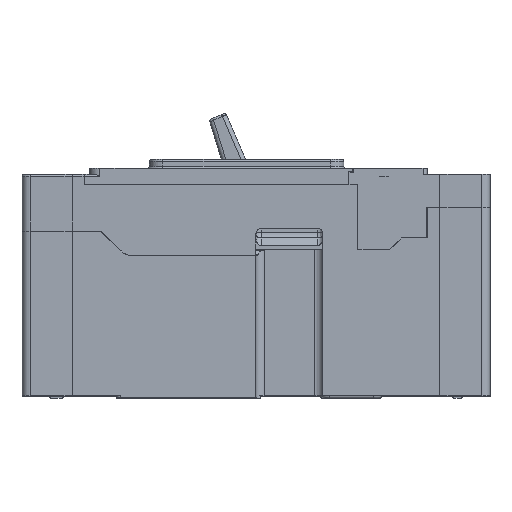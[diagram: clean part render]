
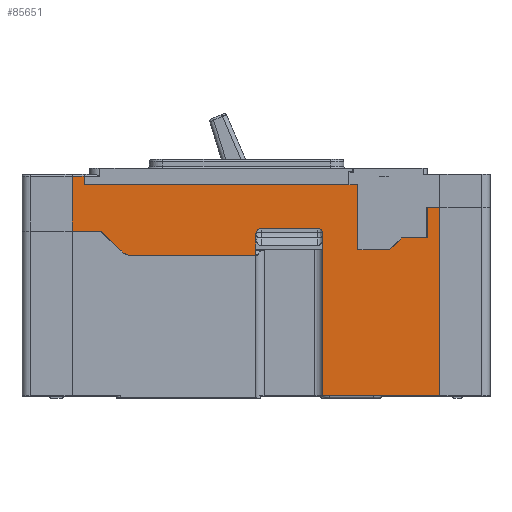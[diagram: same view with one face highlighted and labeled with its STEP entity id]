
A CAD part, top view. The second image highlights one B-rep face of the part: STEP entity #85651.
In plain terms, the highlighted planar face has unit normal (0, 0, 1).
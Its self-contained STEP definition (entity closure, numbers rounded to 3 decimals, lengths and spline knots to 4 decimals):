
#4738=DIRECTION('',(0.,-1.,0.));
#4739=VECTOR('',#4738,2.813);
#4740=CARTESIAN_POINT('',(5.75,0.35,2.062));
#4741=LINE('',#4740,#4739);
#4742=DIRECTION('',(0.,1.,0.));
#4743=VECTOR('',#4742,0.24);
#4744=CARTESIAN_POINT('',(4.,-0.275,2.062));
#4745=LINE('',#4744,#4743);
#4746=DIRECTION('',(-1.,0.,0.));
#4747=VECTOR('',#4746,0.85);
#4748=CARTESIAN_POINT('',(3.925,0.04,2.062));
#4749=LINE('',#4748,#4747);
#4750=DIRECTION('',(-1.,0.,0.));
#4751=VECTOR('',#4750,1.8437);
#4752=CARTESIAN_POINT('',(3.,-0.363,2.062));
#4753=LINE('',#4752,#4751);
#4754=CARTESIAN_POINT('',(1.1563,-0.115,2.062));
#4755=DIRECTION('',(0.,0.,-1.));
#4756=DIRECTION('',(0.,-1.,0.));
#4757=AXIS2_PLACEMENT_3D('',#4754,#4755,#4756);
#4759=DIRECTION('',(-0.707,0.707,0.));
#4760=VECTOR('',#4759,0.4135);
#4761=CARTESIAN_POINT('',(0.9809,-0.2904,2.062));
#4762=LINE('',#4761,#4760);
#4763=DIRECTION('',(-1.,0.,0.));
#4764=VECTOR('',#4763,0.4385);
#4765=CARTESIAN_POINT('',(0.6885,0.002,2.062));
#4766=LINE('',#4765,#4764);
#4767=DIRECTION('',(0.,1.,0.));
#4768=VECTOR('',#4767,0.818);
#4769=CARTESIAN_POINT('',(0.25,0.002,2.062));
#4770=LINE('',#4769,#4768);
#4771=DIRECTION('',(0.,-1.,0.));
#4772=VECTOR('',#4771,0.126);
#4773=CARTESIAN_POINT('',(0.429,0.82,2.062));
#4774=LINE('',#4773,#4772);
#4775=DIRECTION('',(1.,0.,0.));
#4776=VECTOR('',#4775,0.011);
#4777=CARTESIAN_POINT('',(0.429,0.694,2.062));
#4778=LINE('',#4777,#4776);
#4779=DIRECTION('',(-1.,0.,0.));
#4780=VECTOR('',#4779,3.945);
#4781=CARTESIAN_POINT('',(4.385,0.694,2.062));
#4782=LINE('',#4781,#4780);
#4783=DIRECTION('',(1.,0.,0.));
#4784=VECTOR('',#4783,0.006);
#4785=CARTESIAN_POINT('',(4.385,0.694,2.062));
#4786=LINE('',#4785,#4784);
#4787=DIRECTION('',(-1.,0.,0.));
#4788=VECTOR('',#4787,0.134);
#4789=CARTESIAN_POINT('',(4.525,0.694,2.062));
#4790=LINE('',#4789,#4788);
#4791=DIRECTION('',(0.,-1.,0.));
#4792=VECTOR('',#4791,0.973);
#4793=CARTESIAN_POINT('',(4.525,0.694,2.062));
#4794=LINE('',#4793,#4792);
#4795=DIRECTION('',(-0.707,-0.707,0.));
#4796=VECTOR('',#4795,0.0057);
#4797=CARTESIAN_POINT('',(4.997,-0.275,2.062));
#4798=LINE('',#4797,#4796);
#4799=DIRECTION('',(0.707,0.707,0.));
#4800=VECTOR('',#4799,0.2475);
#4801=CARTESIAN_POINT('',(5.002,-0.275,2.062));
#4802=LINE('',#4801,#4800);
#4803=DIRECTION('',(-1.,0.,0.));
#4804=VECTOR('',#4803,0.378);
#4805=CARTESIAN_POINT('',(5.555,-0.1,2.062));
#4806=LINE('',#4805,#4804);
#4807=DIRECTION('',(1.,0.,0.));
#4808=VECTOR('',#4807,0.005);
#4809=CARTESIAN_POINT('',(5.555,-0.1,2.062));
#4810=LINE('',#4809,#4808);
#4811=DIRECTION('',(-1.,0.,0.));
#4812=VECTOR('',#4811,0.19);
#4813=CARTESIAN_POINT('',(5.75,0.35,2.062));
#4814=LINE('',#4813,#4812);
#5302=DIRECTION('',(-1.,0.,0.));
#5303=VECTOR('',#5302,1.75);
#5304=CARTESIAN_POINT('',(5.75,-2.463,2.062));
#5305=LINE('',#5304,#5303);
#6132=DIRECTION('',(-1.,0.,0.));
#6133=VECTOR('',#6132,0.179);
#6134=CARTESIAN_POINT('',(0.429,0.82,2.062));
#6135=LINE('',#6134,#6133);
#6511=DIRECTION('',(0.,1.,0.));
#6512=VECTOR('',#6511,0.328);
#6513=CARTESIAN_POINT('',(3.,-0.363,2.062));
#6514=LINE('',#6513,#6512);
#6768=CARTESIAN_POINT('',(3.075,-0.035,2.062));
#6769=DIRECTION('',(0.,0.,-1.));
#6770=DIRECTION('',(-1.,0.,0.));
#6771=AXIS2_PLACEMENT_3D('',#6768,#6769,#6770);
#6777=CARTESIAN_POINT('',(3.925,-0.035,2.062));
#6778=DIRECTION('',(0.,0.,-1.));
#6779=DIRECTION('',(0.,1.,0.));
#6780=AXIS2_PLACEMENT_3D('',#6777,#6778,#6779);
#7714=DIRECTION('',(0.,-1.,0.));
#7715=VECTOR('',#7714,2.188);
#7716=CARTESIAN_POINT('',(4.,-0.275,2.062));
#7717=LINE('',#7716,#7715);
#11554=DIRECTION('',(-1.,0.,0.));
#11555=VECTOR('',#11554,0.005);
#11556=CARTESIAN_POINT('',(5.002,-0.275,2.062));
#11557=LINE('',#11556,#11555);
#11574=DIRECTION('',(-1.,0.,0.));
#11575=VECTOR('',#11574,0.468);
#11576=CARTESIAN_POINT('',(4.993,-0.279,2.062));
#11577=LINE('',#11576,#11575);
#16290=DIRECTION('',(0.,-1.,0.));
#16291=VECTOR('',#16290,0.45);
#16292=CARTESIAN_POINT('',(5.56,0.35,2.062));
#16293=LINE('',#16292,#16291);
#64630=CARTESIAN_POINT('',(4.,-2.463,2.062));
#64632=VERTEX_POINT('',#64630);
#65432=CARTESIAN_POINT('',(5.75,-2.463,2.062));
#65433=VERTEX_POINT('',#65432);
#66991=CARTESIAN_POINT('',(5.002,-0.275,2.062));
#66993=VERTEX_POINT('',#66991);
#67957=CARTESIAN_POINT('',(5.56,-0.1,2.062));
#67958=VERTEX_POINT('',#67957);
#68587=CARTESIAN_POINT('',(0.25,0.002,2.062));
#68589=VERTEX_POINT('',#68587);
#69061=CARTESIAN_POINT('',(0.429,0.694,2.062));
#69062=VERTEX_POINT('',#69061);
#69286=CARTESIAN_POINT('',(0.25,0.82,2.062));
#69287=VERTEX_POINT('',#69286);
#69288=CARTESIAN_POINT('',(0.429,0.82,2.062));
#69289=VERTEX_POINT('',#69288);
#70799=CARTESIAN_POINT('',(3.,-0.363,2.062));
#70800=CARTESIAN_POINT('',(1.1563,-0.363,2.062));
#70801=VERTEX_POINT('',#70799);
#70802=VERTEX_POINT('',#70800);
#70803=CARTESIAN_POINT('',(0.6885,0.002,2.062));
#70804=VERTEX_POINT('',#70803);
#70805=CARTESIAN_POINT('',(0.9809,-0.2904,2.062));
#70806=VERTEX_POINT('',#70805);
#71007=CARTESIAN_POINT('',(3.925,0.04,2.062));
#71009=VERTEX_POINT('',#71007);
#71011=CARTESIAN_POINT('',(4.,-0.035,2.062));
#71013=VERTEX_POINT('',#71011);
#71016=CARTESIAN_POINT('',(3.075,0.04,2.062));
#71018=VERTEX_POINT('',#71016);
#71020=CARTESIAN_POINT('',(3.,-0.035,2.062));
#71022=VERTEX_POINT('',#71020);
#72359=CARTESIAN_POINT('',(4.,-0.275,2.062));
#72361=VERTEX_POINT('',#72359);
#73361=CARTESIAN_POINT('',(4.385,0.694,2.062));
#73362=CARTESIAN_POINT('',(0.44,0.694,2.062));
#73363=VERTEX_POINT('',#73361);
#73364=VERTEX_POINT('',#73362);
#76368=CARTESIAN_POINT('',(4.525,0.694,2.062));
#76369=CARTESIAN_POINT('',(4.525,-0.279,2.062));
#76370=VERTEX_POINT('',#76368);
#76371=VERTEX_POINT('',#76369);
#76372=CARTESIAN_POINT('',(4.391,0.694,2.062));
#76373=VERTEX_POINT('',#76372);
#77756=CARTESIAN_POINT('',(5.75,0.35,2.062));
#77757=CARTESIAN_POINT('',(5.56,0.35,2.062));
#77758=VERTEX_POINT('',#77756);
#77759=VERTEX_POINT('',#77757);
#77760=CARTESIAN_POINT('',(5.555,-0.1,2.062));
#77761=CARTESIAN_POINT('',(5.177,-0.1,2.062));
#77762=VERTEX_POINT('',#77760);
#77763=VERTEX_POINT('',#77761);
#77764=CARTESIAN_POINT('',(4.997,-0.275,2.062));
#77765=CARTESIAN_POINT('',(4.993,-0.279,2.062));
#77766=VERTEX_POINT('',#77764);
#77767=VERTEX_POINT('',#77765);
#85592=CARTESIAN_POINT('',(6.5,0.,2.062));
#85593=DIRECTION('',(0.,0.,1.));
#85594=DIRECTION('',(-1.,0.,0.));
#85595=AXIS2_PLACEMENT_3D('',#85592,#85593,#85594);
#85596=PLANE('',#85595);
#85598=ORIENTED_EDGE('',*,*,#85597,.T.);
#85600=ORIENTED_EDGE('',*,*,#85599,.T.);
#85602=ORIENTED_EDGE('',*,*,#85601,.F.);
#85604=ORIENTED_EDGE('',*,*,#85603,.T.);
#85606=ORIENTED_EDGE('',*,*,#85605,.F.);
#85608=ORIENTED_EDGE('',*,*,#85607,.T.);
#85610=ORIENTED_EDGE('',*,*,#85609,.F.);
#85612=ORIENTED_EDGE('',*,*,#85611,.F.);
#85614=ORIENTED_EDGE('',*,*,#85613,.T.);
#85616=ORIENTED_EDGE('',*,*,#85615,.T.);
#85618=ORIENTED_EDGE('',*,*,#85617,.T.);
#85620=ORIENTED_EDGE('',*,*,#85619,.T.);
#85622=ORIENTED_EDGE('',*,*,#85621,.T.);
#85624=ORIENTED_EDGE('',*,*,#85623,.F.);
#85626=ORIENTED_EDGE('',*,*,#85625,.T.);
#85627=ORIENTED_EDGE('',*,*,#80408,.T.);
#85629=ORIENTED_EDGE('',*,*,#85628,.F.);
#85631=ORIENTED_EDGE('',*,*,#85630,.T.);
#85633=ORIENTED_EDGE('',*,*,#85632,.F.);
#85635=ORIENTED_EDGE('',*,*,#85634,.T.);
#85637=ORIENTED_EDGE('',*,*,#85636,.F.);
#85639=ORIENTED_EDGE('',*,*,#85638,.F.);
#85641=ORIENTED_EDGE('',*,*,#85640,.F.);
#85643=ORIENTED_EDGE('',*,*,#85642,.T.);
#85644=ORIENTED_EDGE('',*,*,#85575,.F.);
#85645=ORIENTED_EDGE('',*,*,#85550,.T.);
#85647=ORIENTED_EDGE('',*,*,#85646,.F.);
#85648=ORIENTED_EDGE('',*,*,#85252,.F.);
#85649=EDGE_LOOP('',(#85598,#85600,#85602,#85604,#85606,#85608,#85610,#85612,
#85614,#85616,#85618,#85620,#85622,#85624,#85626,#85627,#85629,#85631,#85633,
#85635,#85637,#85639,#85641,#85643,#85644,#85645,#85647,#85648));
#85650=FACE_OUTER_BOUND('',#85649,.F.);
#85651=ADVANCED_FACE('',(#85650),#85596,.T.);
#4758=CIRCLE('',#4757,0.248);
#6772=CIRCLE('',#6771,0.075);
#6781=CIRCLE('',#6780,0.075);
#80408=EDGE_CURVE('',#69062,#73364,#4778,.T.);
#85252=EDGE_CURVE('',#77758,#77759,#4814,.T.);
#85550=EDGE_CURVE('',#77762,#67958,#4810,.T.);
#85575=EDGE_CURVE('',#77762,#77763,#4806,.T.);
#85597=EDGE_CURVE('',#77758,#65433,#4741,.T.);
#85599=EDGE_CURVE('',#65433,#64632,#5305,.T.);
#85601=EDGE_CURVE('',#72361,#64632,#7717,.T.);
#85603=EDGE_CURVE('',#72361,#71013,#4745,.T.);
#85605=EDGE_CURVE('',#71009,#71013,#6781,.T.);
#85607=EDGE_CURVE('',#71009,#71018,#4749,.T.);
#85609=EDGE_CURVE('',#71022,#71018,#6772,.T.);
#85611=EDGE_CURVE('',#70801,#71022,#6514,.T.);
#85613=EDGE_CURVE('',#70801,#70802,#4753,.T.);
#85615=EDGE_CURVE('',#70802,#70806,#4758,.T.);
#85617=EDGE_CURVE('',#70806,#70804,#4762,.T.);
#85619=EDGE_CURVE('',#70804,#68589,#4766,.T.);
#85621=EDGE_CURVE('',#68589,#69287,#4770,.T.);
#85623=EDGE_CURVE('',#69289,#69287,#6135,.T.);
#85625=EDGE_CURVE('',#69289,#69062,#4774,.T.);
#85628=EDGE_CURVE('',#73363,#73364,#4782,.T.);
#85630=EDGE_CURVE('',#73363,#76373,#4786,.T.);
#85632=EDGE_CURVE('',#76370,#76373,#4790,.T.);
#85634=EDGE_CURVE('',#76370,#76371,#4794,.T.);
#85636=EDGE_CURVE('',#77767,#76371,#11577,.T.);
#85638=EDGE_CURVE('',#77766,#77767,#4798,.T.);
#85640=EDGE_CURVE('',#66993,#77766,#11557,.T.);
#85642=EDGE_CURVE('',#66993,#77763,#4802,.T.);
#85646=EDGE_CURVE('',#77759,#67958,#16293,.T.);
